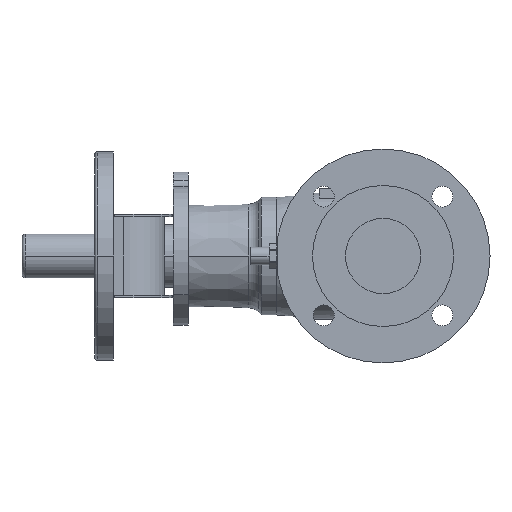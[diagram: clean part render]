
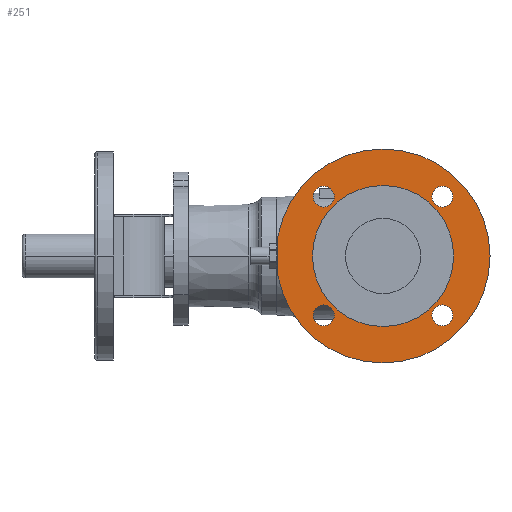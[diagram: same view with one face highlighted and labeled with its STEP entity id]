
A CAD part, left-side view. The second image highlights one B-rep face of the part: STEP entity #251.
In plain terms, the highlighted planar face has unit normal (-1, 0, 0).
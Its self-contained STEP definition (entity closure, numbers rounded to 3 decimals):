
#251 = ADVANCED_FACE( '', ( #641, #642, #643, #644, #645, #646 ), #647, .F. );
#641 = FACE_OUTER_BOUND( '', #1049, .T. );
#642 = FACE_BOUND( '', #1050, .T. );
#643 = FACE_BOUND( '', #1051, .T. );
#644 = FACE_BOUND( '', #1052, .T. );
#645 = FACE_BOUND( '', #1053, .T. );
#646 = FACE_BOUND( '', #1054, .T. );
#647 = PLANE( '', #1055 );
#1049 = EDGE_LOOP( '', ( #2512, #2513, #2514, #2515 ) );
#1050 = EDGE_LOOP( '', ( #2516, #2517 ) );
#1051 = EDGE_LOOP( '', ( #2518, #2519 ) );
#1052 = EDGE_LOOP( '', ( #2520, #2521 ) );
#1053 = EDGE_LOOP( '', ( #2522, #2523 ) );
#1054 = EDGE_LOOP( '', ( #2524, #2525 ) );
#1055 = AXIS2_PLACEMENT_3D( '', #2526, #2527, #2528 );
#2512 = ORIENTED_EDGE( '', *, *, #3059, .T. );
#2513 = ORIENTED_EDGE( '', *, *, #3069, .F. );
#2514 = ORIENTED_EDGE( '', *, *, #2608, .F. );
#2515 = ORIENTED_EDGE( '', *, *, #2605, .F. );
#2516 = ORIENTED_EDGE( '', *, *, #3070, .F. );
#2517 = ORIENTED_EDGE( '', *, *, #2624, .F. );
#2518 = ORIENTED_EDGE( '', *, *, #3071, .F. );
#2519 = ORIENTED_EDGE( '', *, *, #2620, .F. );
#2520 = ORIENTED_EDGE( '', *, *, #3072, .F. );
#2521 = ORIENTED_EDGE( '', *, *, #2616, .F. );
#2522 = ORIENTED_EDGE( '', *, *, #3073, .F. );
#2523 = ORIENTED_EDGE( '', *, *, #2612, .F. );
#2524 = ORIENTED_EDGE( '', *, *, #3074, .F. );
#2525 = ORIENTED_EDGE( '', *, *, #2599, .F. );
#2526 = CARTESIAN_POINT( '', ( 3.5, 0., 0. ) );
#2527 = DIRECTION( '', ( 1., 0., 0. ) );
#2528 = DIRECTION( '', ( 0., 0., -1. ) );
#2599 = EDGE_CURVE( '', #3081, #3084, #3085, .T. );
#2605 = EDGE_CURVE( '', #3094, #3089, #3096, .T. );
#2608 = EDGE_CURVE( '', #3089, #3098, #3101, .T. );
#2612 = EDGE_CURVE( '', #3107, #3103, #3109, .T. );
#2616 = EDGE_CURVE( '', #3115, #3111, #3117, .T. );
#2620 = EDGE_CURVE( '', #3123, #3119, #3125, .T. );
#2624 = EDGE_CURVE( '', #3131, #3127, #3133, .T. );
#3059 = EDGE_CURVE( '', #3094, #3854, #3857, .T. );
#3069 = EDGE_CURVE( '', #3098, #3854, #3870, .T. );
#3070 = EDGE_CURVE( '', #3127, #3131, #3871, .T. );
#3071 = EDGE_CURVE( '', #3119, #3123, #3872, .T. );
#3072 = EDGE_CURVE( '', #3111, #3115, #3873, .T. );
#3073 = EDGE_CURVE( '', #3103, #3107, #3874, .T. );
#3074 = EDGE_CURVE( '', #3084, #3081, #3875, .T. );
#3081 = VERTEX_POINT( '', #3882 );
#3084 = VERTEX_POINT( '', #3886 );
#3085 = CIRCLE( '', #3887, 61. );
#3089 = VERTEX_POINT( '', #3892 );
#3094 = VERTEX_POINT( '', #3898 );
#3096 = CIRCLE( '', #3901, 92.5 );
#3098 = VERTEX_POINT( '', #3903 );
#3101 = CIRCLE( '', #3907, 92.5 );
#3103 = VERTEX_POINT( '', #3909 );
#3107 = VERTEX_POINT( '', #3914 );
#3109 = CIRCLE( '', #3917, 9. );
#3111 = VERTEX_POINT( '', #3919 );
#3115 = VERTEX_POINT( '', #3924 );
#3117 = CIRCLE( '', #3927, 9. );
#3119 = VERTEX_POINT( '', #3929 );
#3123 = VERTEX_POINT( '', #3934 );
#3125 = CIRCLE( '', #3937, 9. );
#3127 = VERTEX_POINT( '', #3939 );
#3131 = VERTEX_POINT( '', #3944 );
#3133 = CIRCLE( '', #3947, 9. );
#3854 = VERTEX_POINT( '', #5418 );
#3857 = LINE( '', #5422, #5423 );
#3870 = CIRCLE( '', #5477, 92.5 );
#3871 = CIRCLE( '', #5478, 9. );
#3872 = CIRCLE( '', #5479, 9. );
#3873 = CIRCLE( '', #5480, 9. );
#3874 = CIRCLE( '', #5481, 9. );
#3875 = CIRCLE( '', #5482, 61. );
#3882 = CARTESIAN_POINT( '', ( 3.5, 61., 0. ) );
#3886 = CARTESIAN_POINT( '', ( 3.5, -61., 0. ) );
#3887 = AXIS2_PLACEMENT_3D( '', #5490, #5491, #5492 );
#3892 = CARTESIAN_POINT( '', ( 3.5, 0., 92.5 ) );
#3898 = CARTESIAN_POINT( '', ( 3.5, 90.895, 17.157 ) );
#3901 = AXIS2_PLACEMENT_3D( '', #5502, #5503, #5504 );
#3903 = CARTESIAN_POINT( '', ( 3.5, 0., -92.5 ) );
#3907 = AXIS2_PLACEMENT_3D( '', #5509, #5510, #5511 );
#3909 = CARTESIAN_POINT( '', ( 3.5, 51.265, -60.265 ) );
#3914 = CARTESIAN_POINT( '', ( 3.5, 51.265, -42.265 ) );
#3917 = AXIS2_PLACEMENT_3D( '', #5517, #5518, #5519 );
#3919 = CARTESIAN_POINT( '', ( 3.5, -51.265, -60.265 ) );
#3924 = CARTESIAN_POINT( '', ( 3.5, -51.265, -42.265 ) );
#3927 = AXIS2_PLACEMENT_3D( '', #5525, #5526, #5527 );
#3929 = CARTESIAN_POINT( '', ( 3.5, 51.265, 42.265 ) );
#3934 = CARTESIAN_POINT( '', ( 3.5, 51.265, 60.265 ) );
#3937 = AXIS2_PLACEMENT_3D( '', #5533, #5534, #5535 );
#3939 = CARTESIAN_POINT( '', ( 3.5, -51.265, 42.265 ) );
#3944 = CARTESIAN_POINT( '', ( 3.5, -51.265, 60.265 ) );
#3947 = AXIS2_PLACEMENT_3D( '', #5541, #5542, #5543 );
#5418 = CARTESIAN_POINT( '', ( 3.5, 90.895, -17.157 ) );
#5422 = CARTESIAN_POINT( '', ( 3.5, 90.895, 12.5 ) );
#5423 = VECTOR( '', #6351, 1. );
#5477 = AXIS2_PLACEMENT_3D( '', #6368, #6369, #6370 );
#5478 = AXIS2_PLACEMENT_3D( '', #6371, #6372, #6373 );
#5479 = AXIS2_PLACEMENT_3D( '', #6374, #6375, #6376 );
#5480 = AXIS2_PLACEMENT_3D( '', #6377, #6378, #6379 );
#5481 = AXIS2_PLACEMENT_3D( '', #6380, #6381, #6382 );
#5482 = AXIS2_PLACEMENT_3D( '', #6383, #6384, #6385 );
#5490 = CARTESIAN_POINT( '', ( 3.5, 0., 0. ) );
#5491 = DIRECTION( '', ( -1., 0., 0. ) );
#5492 = DIRECTION( '', ( 0., 1., 0. ) );
#5502 = CARTESIAN_POINT( '', ( 3.5, 0., 0. ) );
#5503 = DIRECTION( '', ( 1., 0., 0. ) );
#5504 = DIRECTION( '', ( 0., 0., -1. ) );
#5509 = CARTESIAN_POINT( '', ( 3.5, 0., 0. ) );
#5510 = DIRECTION( '', ( 1., 0., 0. ) );
#5511 = DIRECTION( '', ( 0., 0., -1. ) );
#5517 = CARTESIAN_POINT( '', ( 3.5, 51.265, -51.265 ) );
#5518 = DIRECTION( '', ( -1., 0., 0. ) );
#5519 = DIRECTION( '', ( 0., 0., -1. ) );
#5525 = CARTESIAN_POINT( '', ( 3.5, -51.265, -51.265 ) );
#5526 = DIRECTION( '', ( -1., 0., 0. ) );
#5527 = DIRECTION( '', ( 0., 0., -1. ) );
#5533 = CARTESIAN_POINT( '', ( 3.5, 51.265, 51.265 ) );
#5534 = DIRECTION( '', ( -1., 0., 0. ) );
#5535 = DIRECTION( '', ( 0., 0., -1. ) );
#5541 = CARTESIAN_POINT( '', ( 3.5, -51.265, 51.265 ) );
#5542 = DIRECTION( '', ( -1., 0., 0. ) );
#5543 = DIRECTION( '', ( 0., 0., -1. ) );
#6351 = DIRECTION( '', ( 0., 0., -1. ) );
#6368 = CARTESIAN_POINT( '', ( 3.5, 0., 0. ) );
#6369 = DIRECTION( '', ( 1., 0., 0. ) );
#6370 = DIRECTION( '', ( 0., 0., -1. ) );
#6371 = CARTESIAN_POINT( '', ( 3.5, -51.265, 51.265 ) );
#6372 = DIRECTION( '', ( -1., 0., 0. ) );
#6373 = DIRECTION( '', ( 0., 0., -1. ) );
#6374 = CARTESIAN_POINT( '', ( 3.5, 51.265, 51.265 ) );
#6375 = DIRECTION( '', ( -1., 0., 0. ) );
#6376 = DIRECTION( '', ( 0., 0., -1. ) );
#6377 = CARTESIAN_POINT( '', ( 3.5, -51.265, -51.265 ) );
#6378 = DIRECTION( '', ( -1., 0., 0. ) );
#6379 = DIRECTION( '', ( 0., 0., -1. ) );
#6380 = CARTESIAN_POINT( '', ( 3.5, 51.265, -51.265 ) );
#6381 = DIRECTION( '', ( -1., 0., 0. ) );
#6382 = DIRECTION( '', ( 0., 0., -1. ) );
#6383 = CARTESIAN_POINT( '', ( 3.5, 0., 0. ) );
#6384 = DIRECTION( '', ( -1., 0., 0. ) );
#6385 = DIRECTION( '', ( 0., 1., 0. ) );
